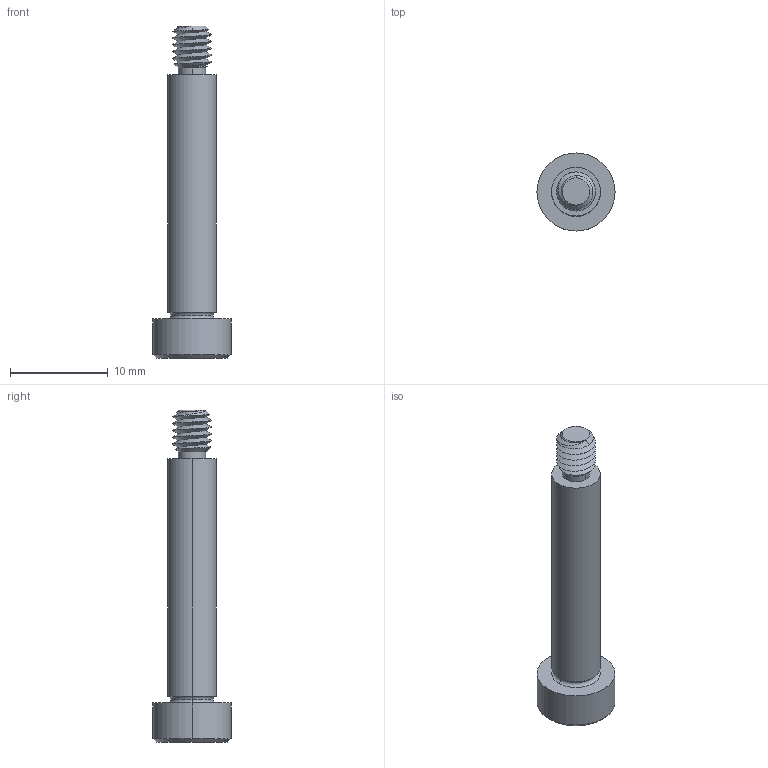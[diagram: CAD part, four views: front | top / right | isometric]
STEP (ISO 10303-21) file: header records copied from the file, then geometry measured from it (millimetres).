
FILE_DESCRIPTION (( 'STEP AP203' ), '1' );
FILE_NAME ('P0130.050-025-B2.step', '2021-11-09T21:16:27', ( '' ), ( '' ), 'SwSTEP 2.0', 'SolidWorks 2019', '' );
FILE_SCHEMA (( 'CONFIG_CONTROL_DESIGN' ));
Length unit declared in the file: millimetre
Products named in the file (1): P0130.050-025-B2
Bounding box: 8 x 8 x 34 mm (x, y, z)
Volume: 715.1 mm3; surface area: 708.2 mm2
Topology: 1 solids, 1 shells, 53 faces, 121 edges, 71 vertices
Faces by surface type: cylinder 16, plane 16, cone 15, torus 4, bspline 2
Entity records: 2151 total; most frequent: CARTESIAN_POINT 968, ORIENTED_EDGE 238, DIRECTION 226, EDGE_CURVE 119, AXIS2_PLACEMENT_3D 92, VERTEX_POINT 71, EDGE_LOOP 56, FACE_OUTER_BOUND 53
